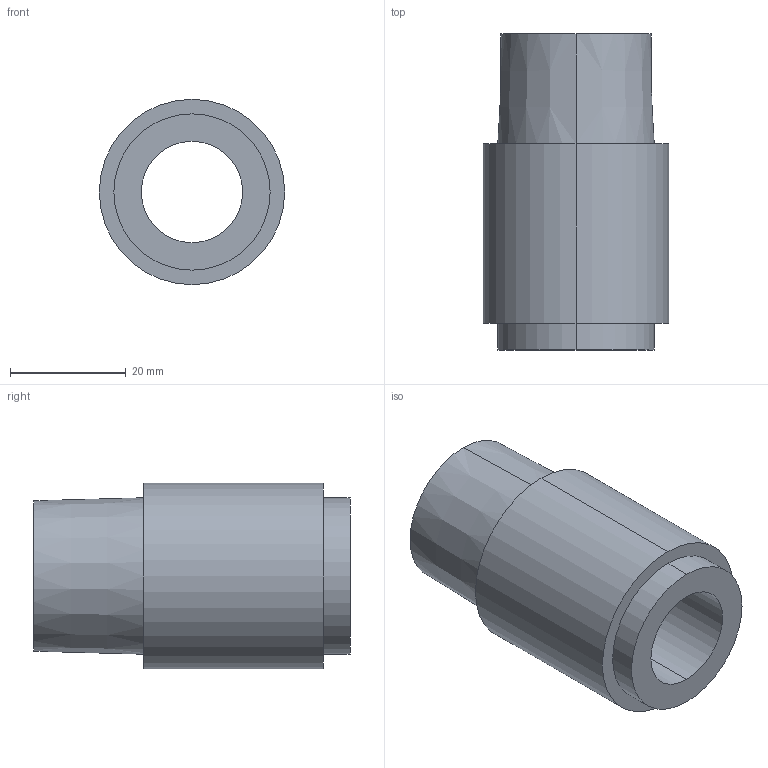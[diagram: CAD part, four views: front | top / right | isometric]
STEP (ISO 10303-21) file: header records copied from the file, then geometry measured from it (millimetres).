
FILE_DESCRIPTION (( 'STEP AP203' ), '1' );
FILE_NAME ('5à.2.STEP', '2025-02-10T09:13:08', ( '' ), ( '' ), 'SwSTEP 2.0', 'SolidWorks 2021', '' );
FILE_SCHEMA (( 'CONFIG_CONTROL_DESIGN' ));
Length unit declared in the file: millimetre
Products named in the file (1): 5à.2
Bounding box: 32 x 54.6 x 32 mm (x, y, z)
Volume: 23978.4 mm3; surface area: 9076 mm2
Topology: 1 solids, 1 shells, 14 faces, 28 edges, 18 vertices
Faces by surface type: cylinder 6, cone 4, plane 4
Entity records: 455 total; most frequent: DIRECTION 76, CARTESIAN_POINT 61, ORIENTED_EDGE 56, AXIS2_PLACEMENT_3D 33, EDGE_CURVE 28, EDGE_LOOP 18, CIRCLE 18, VERTEX_POINT 18
